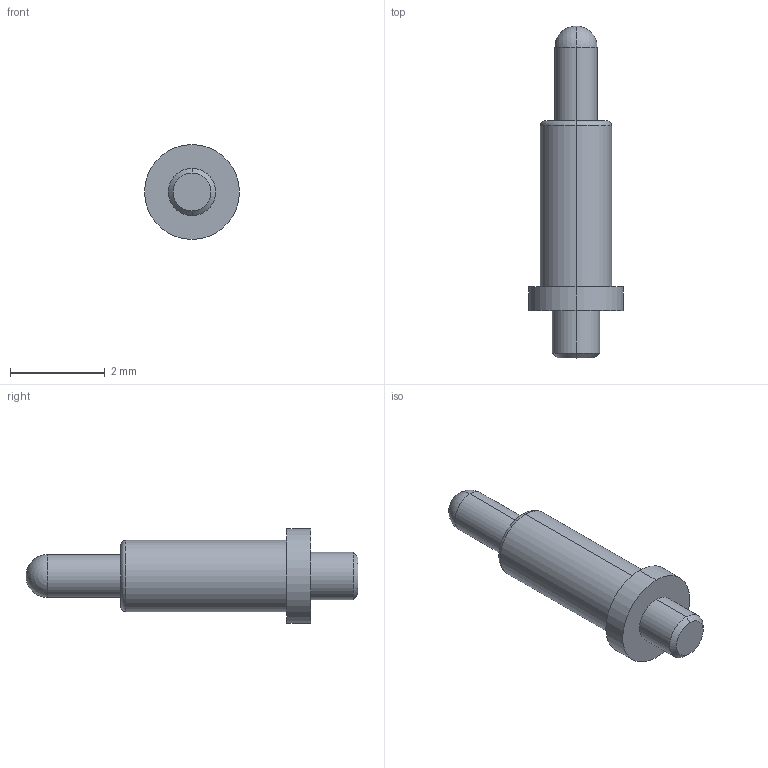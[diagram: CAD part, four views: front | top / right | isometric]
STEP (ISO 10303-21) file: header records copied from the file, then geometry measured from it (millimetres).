
FILE_DESCRIPTION (( 'STEP AP214' ), '1' );
FILE_NAME ('CPG-04-TH-TR.STEP', '2024-03-11T11:22:48', ( 'Tashadra' ), ( '' ), 'SwSTEP 2.0', 'SolidWorks 2016', '' );
FILE_SCHEMA (( 'AUTOMOTIVE_DESIGN' ));
Length unit declared in the file: millimetre
Products named in the file (1): CPG-04-TH-TR
Bounding box: 2 x 7 x 2 mm (x, y, z)
Volume: 9.7 mm3; surface area: 33.7 mm2
Topology: 1 solids, 1 shells, 18 faces, 38 edges, 23 vertices
Faces by surface type: cylinder 8, plane 4, cone 2, torus 2, sphere 2
Entity records: 496 total; most frequent: DIRECTION 96, CARTESIAN_POINT 74, ORIENTED_EDGE 68, AXIS2_PLACEMENT_3D 43, EDGE_CURVE 34, CIRCLE 24, VERTEX_POINT 21, EDGE_LOOP 21
